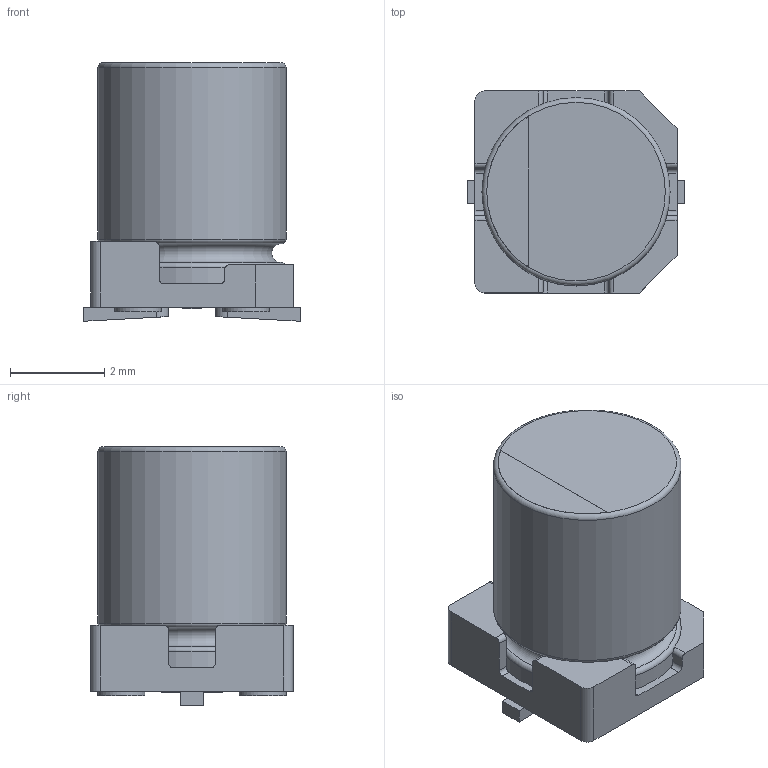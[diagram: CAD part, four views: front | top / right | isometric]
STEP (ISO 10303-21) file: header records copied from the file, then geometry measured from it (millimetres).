
FILE_DESCRIPTION(/* description */ (''),/* implementation_level */ '2;1');
FILE_NAME(/* name */ '4x5.5_Chip.stp',/* time_stamp */ '2017-09-04T16:06:29+09:00',/* author */ (''),/* organization */ (''),/* preprocessor_version */ 'ST-DEVELOPER v16',/* originating_system */ 'SIEMENS PLM Software NX 11.0',/* authorisation */ '');
FILE_SCHEMA (('AUTOMOTIVE_DESIGN { 1 0 10303 214 3 1 1 1 }'));
Length unit declared in the file: millimetre
Products named in the file (1): 4x5.5_Chip_0
Bounding box: 4.6 x 4.3 x 5.5 mm (x, y, z)
Volume: 70.5 mm3; surface area: 155.5 mm2
Topology: 5 solids, 5 shells, 81 faces, 194 edges, 128 vertices
Faces by surface type: plane 44, cylinder 33, torus 4
Full cylindrical faces by diameter (mm): 1 x4, 4 x2
Entity records: 2538 total; most frequent: CARTESIAN_POINT 528, DIRECTION 384, ORIENTED_EDGE 366, EDGE_CURVE 183, AXIS2_PLACEMENT_3D 135, VERTEX_POINT 127, LINE 114, VECTOR 114
